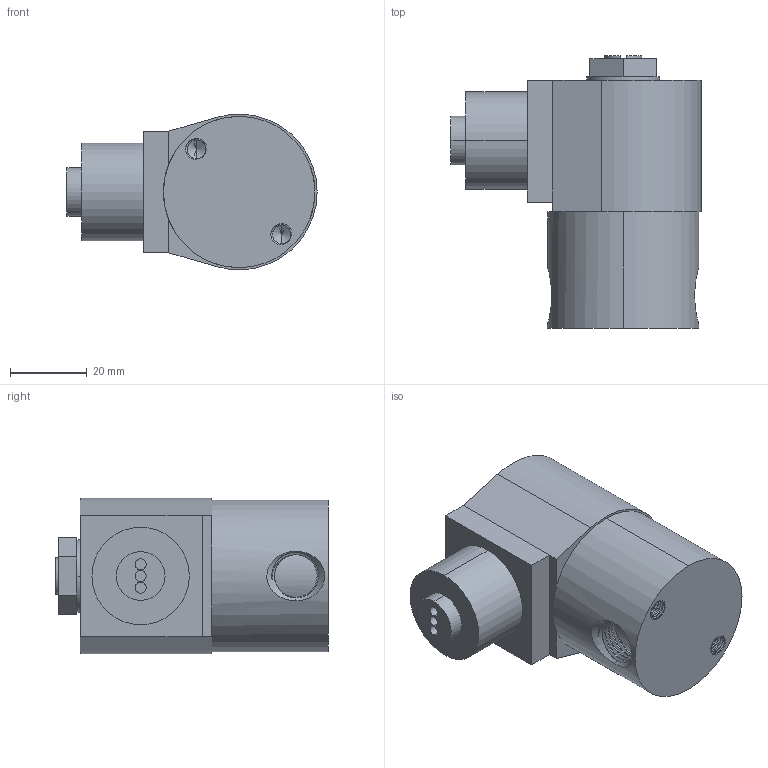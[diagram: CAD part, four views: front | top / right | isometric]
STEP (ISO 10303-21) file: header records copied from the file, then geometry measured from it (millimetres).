
FILE_DESCRIPTION (( 'STEP AP203' ), '1' );
FILE_NAME ('S311G_B.STEP', '2022-07-11T14:00:12', ( '' ), ( '' ), 'SwSTEP 2.0', 'SolidWorks 2022', '' );
FILE_SCHEMA (( 'CONFIG_CONTROL_DESIGN' ));
Length unit declared in the file: inch
Products named in the file (1): S311G_B
Bounding box: 65.23 x 71.12 x 40.57 mm (x, y, z)
Volume: 96764.4 mm3; surface area: 15753.2 mm2
Topology: 1 solids, 1 shells, 167 faces, 437 edges, 281 vertices
Faces by surface type: cylinder 84, plane 45, bspline 26, cone 12
Entity records: 15629 total; most frequent: CARTESIAN_POINT 12054, ORIENTED_EDGE 866, DIRECTION 582, EDGE_CURVE 433, VERTEX_POINT 281, AXIS2_PLACEMENT_3D 214, EDGE_LOOP 180, ADVANCED_FACE 167
